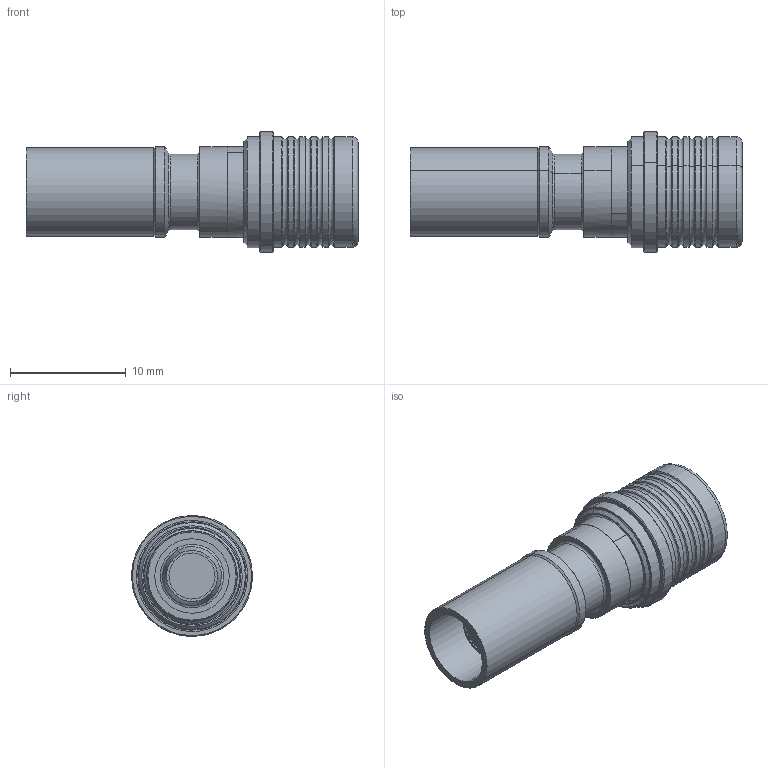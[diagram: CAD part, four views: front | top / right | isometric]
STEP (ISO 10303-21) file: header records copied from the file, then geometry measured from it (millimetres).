
FILE_DESCRIPTION(('CATIA V5 STEP'),'2;1');
FILE_NAME('H:\tpdm\Work\11_QMA-W50-4-3.stp','2007-04-24T13:24:21+00:00',('none'),('none'),'CATIA Version 5 Release 14 (IN-10)','CATIA V5 STEP AP214','none');
FILE_SCHEMA(('AUTOMOTIVE_DESIGN { 1 0 10303 214 1 1 1 1 }'));
Length unit declared in the file: millimetre
Products named in the file (1): PAR-00096779
Bounding box: 28.68 x 10.45 x 10.45 mm (x, y, z)
Volume: 1333.5 mm3; surface area: 1310.1 mm2
Topology: 1 solids, 1 shells, 113 faces, 224 edges, 128 vertices
Faces by surface type: cylinder 40, cone 34, torus 22, plane 17
Entity records: 2588 total; most frequent: CARTESIAN_POINT 480, ORIENTED_EDGE 448, DIRECTION 343, EDGE_CURVE 224, AXIS2_PLACEMENT_3D 209, CIRCLE 147, EDGE_LOOP 128, VERTEX_POINT 128
